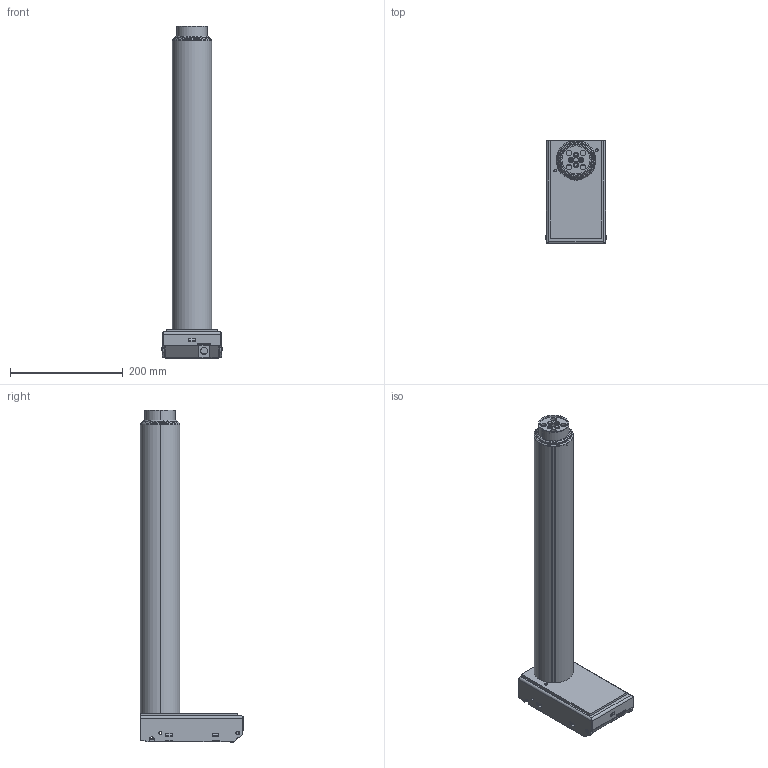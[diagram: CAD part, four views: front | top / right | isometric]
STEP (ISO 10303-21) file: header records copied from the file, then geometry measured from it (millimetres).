
FILE_DESCRIPTION (( 'STEP AP203' ), '1' );
FILE_NAME ('3D_TL11.STEP', '2020-05-11T03:30:40', ( '' ), ( '' ), 'SwSTEP 2.0', 'SolidWorks 2015', '' );
FILE_SCHEMA (( 'CONFIG_CONTROL_DESIGN' ));
Length unit declared in the file: millimetre
Products named in the file (1): 3D_TL11
Bounding box: 107 x 183.14 x 590 mm (x, y, z)
Volume: 809413.2 mm3; surface area: 726557.7 mm2
Topology: 8 solids, 8 shells, 1402 faces, 3711 edges, 2255 vertices
Faces by surface type: cylinder 740, plane 440, sphere 73, bspline 67, torus 58, cone 24
Entity records: 47273 total; most frequent: CARTESIAN_POINT 13086, DIRECTION 7290, ORIENTED_EDGE 7262, EDGE_CURVE 3631, AXIS2_PLACEMENT_3D 2691, VERTEX_POINT 2255, LINE 1908, VECTOR 1908
